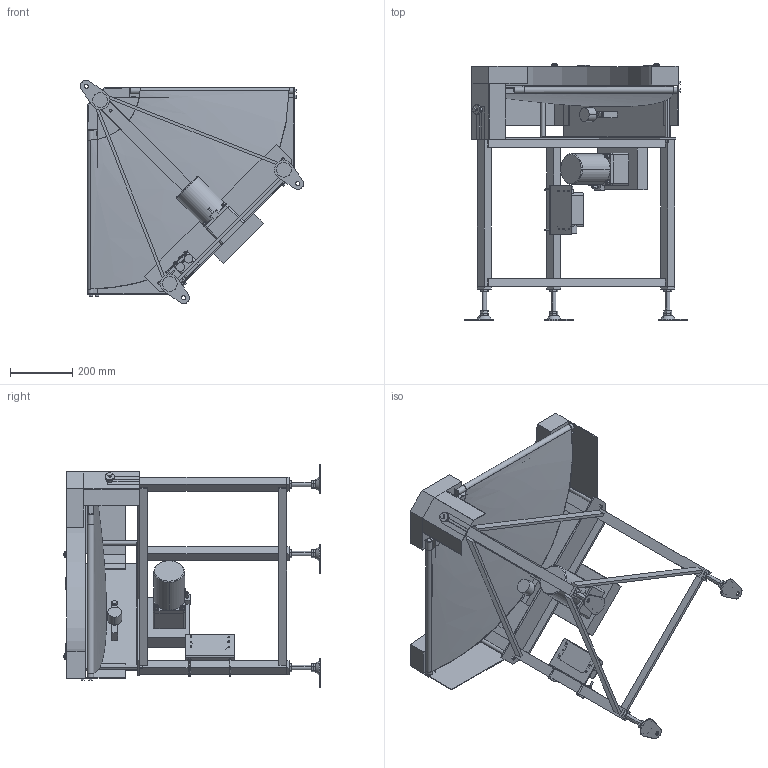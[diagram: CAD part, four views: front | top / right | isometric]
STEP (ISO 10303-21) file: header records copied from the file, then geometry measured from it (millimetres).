
FILE_DESCRIPTION( (''), '2;1');
FILE_NAME ('FFBC3-UD-309-400-90°-R-K-60.stp','2025-02-17T15:16:36',(''),(''),'spGate 20.6.2 (****-****-****-****)','','');
FILE_SCHEMA (('AUTOMOTIVE_DESIGN'));
Length unit declared in the file: millimetre
Products named in the file (66): NewModel; TEMP_X_T-prt0; TEMP_X_T-prt1; TEMP_X_T-prt2; TEMP_X_T-prt3; TEMP_X_T-prt4; TEMP_X_T-prt5; TEMP_X_T-prt6; TEMP_X_T-prt7; TEMP_X_T-prt8; TEMP_X_T-prt9; TEMP_X_T-prt10; TEMP_X_T-prt11; TEMP_X_T-prt12; TEMP_X_T-prt13; TEMP_X_T-prt14; TEMP_X_T-prt15; TEMP_X_T-prt16; TEMP_X_T-prt17; TEMP_X_T-prt18; TEMP_X_T-prt19; TEMP_X_T-prt20; TEMP_X_T-prt21; TEMP_X_T-prt22; TEMP_X_T-prt23; TEMP_X_T-prt24; TEMP_X_T-prt25; TEMP_X_T-prt26; TEMP_X_T-prt27; TEMP_X_T-prt28; TEMP_X_T-prt29; TEMP_X_T-prt30; TEMP_X_T-prt31; TEMP_X_T-prt32; TEMP_X_T-prt33; TEMP_X_T-prt34; TEMP_X_T-prt35; TEMP_X_T-prt36; TEMP_X_T-prt37; TEMP_X_T-prt38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
Assembly tree (65 placements, depth 2):
  NewModel
    TEMP_X_T-prt0
    TEMP_X_T-prt1
    TEMP_X_T-prt2
    TEMP_X_T-prt3
    TEMP_X_T-prt4
    TEMP_X_T-prt5
    TEMP_X_T-prt6
    TEMP_X_T-prt7
    TEMP_X_T-prt8
    TEMP_X_T-prt9
    TEMP_X_T-prt10
    TEMP_X_T-prt11
    TEMP_X_T-prt12
    TEMP_X_T-prt13
    TEMP_X_T-prt14
    TEMP_X_T-prt15
    TEMP_X_T-prt16
    TEMP_X_T-prt17
    TEMP_X_T-prt18
    TEMP_X_T-prt19
    TEMP_X_T-prt20
    TEMP_X_T-prt21
    TEMP_X_T-prt22
    TEMP_X_T-prt23
    TEMP_X_T-prt24
    TEMP_X_T-prt25
    TEMP_X_T-prt26
    TEMP_X_T-prt27
    TEMP_X_T-prt28
    TEMP_X_T-prt29
    TEMP_X_T-prt30
    TEMP_X_T-prt31
    TEMP_X_T-prt32
    TEMP_X_T-prt33
    TEMP_X_T-prt34
    TEMP_X_T-prt35
    TEMP_X_T-prt36
    TEMP_X_T-prt37
    TEMP_X_T-prt38
    TEMP_X_T-prt39
    TEMP_X_T-prt40
    TEMP_X_T-prt41
    TEMP_X_T-prt42
    TEMP_X_T-prt43
    TEMP_X_T-prt44
    TEMP_X_T-prt45
    TEMP_X_T-prt46
    TEMP_X_T-prt47
    TEMP_X_T-prt48
    TEMP_X_T-prt49
    TEMP_X_T-prt50
    TEMP_X_T-prt51
    TEMP_X_T-prt52
    TEMP_X_T-prt53
    TEMP_X_T-prt54
    TEMP_X_T-prt55
    TEMP_X_T-prt56
    TEMP_X_T-prt57
    TEMP_X_T-prt58
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Bounding box: 719.17 x 827.92 x 719.17 mm (x, y, z)
Volume: 17979131.4 mm3; surface area: 3935432.6 mm2
Topology: 65 solids, 65 shells, 1161 faces, 2669 edges, 1716 vertices
Faces by surface type: plane 706, cylinder 319, bspline 132, sphere 4
Entity records: 60233 total; most frequent: CARTESIAN_POINT 10654, ORIENTED_EDGE 5306, DIRECTION 5280, COLOUR_RGB 3879, PRESENTATION_STYLE_ASSIGNMENT 3879, STYLED_ITEM 3879, EDGE_CURVE 2653, DRAUGHTING_PRE_DEFINED_CURVE_FONT 2653
